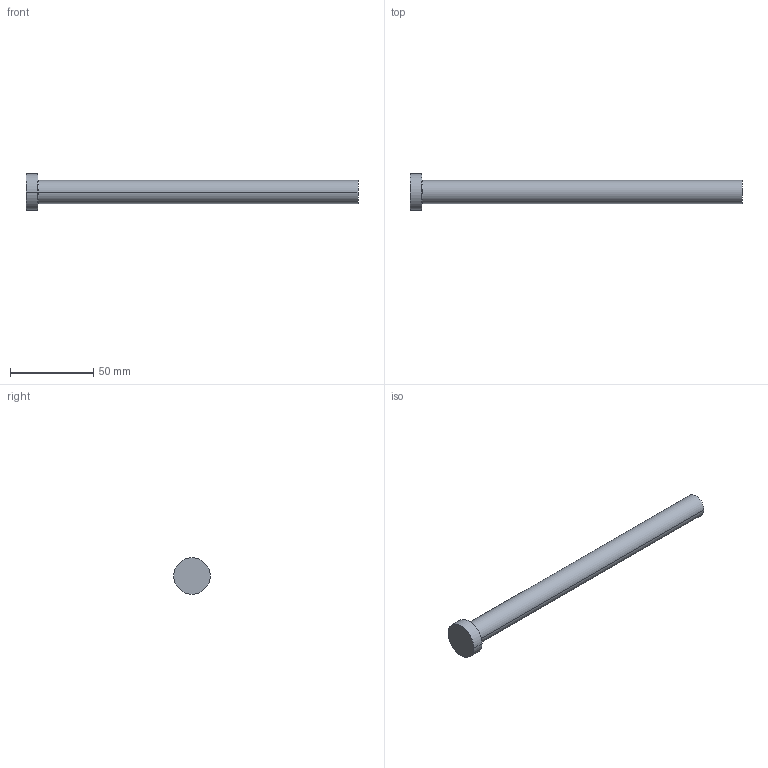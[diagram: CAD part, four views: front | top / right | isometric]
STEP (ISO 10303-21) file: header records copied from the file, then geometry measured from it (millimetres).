
FILE_DESCRIPTION (( 'STEP AP214' ), '1' );
FILE_NAME ('A-14x200.STEP', '2020-05-29T16:16:26', ( 'August' ), ( '' ), 'SwSTEP 2.0', 'SolidWorks 2018', '' );
FILE_SCHEMA (( 'AUTOMOTIVE_DESIGN' ));
Length unit declared in the file: millimetre
Products named in the file (1): A-14x200
Bounding box: 200 x 22 x 22 mm (x, y, z)
Volume: 32377.2 mm3; surface area: 9717.8 mm2
Topology: 1 solids, 1 shells, 9 faces, 16 edges, 10 vertices
Faces by surface type: cylinder 4, plane 3, torus 2
Entity records: 260 total; most frequent: DIRECTION 48, CARTESIAN_POINT 36, ORIENTED_EDGE 32, AXIS2_PLACEMENT_3D 22, EDGE_CURVE 16, CIRCLE 12, EDGE_LOOP 10, VERTEX_POINT 10
